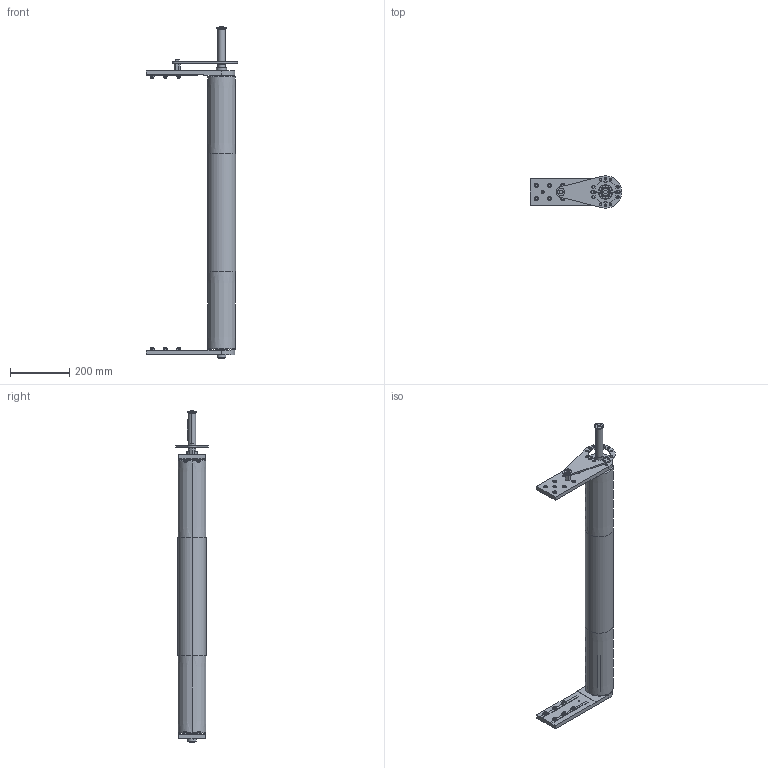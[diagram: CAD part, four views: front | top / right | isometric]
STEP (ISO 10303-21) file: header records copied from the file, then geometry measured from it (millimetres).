
FILE_DESCRIPTION (( 'STEP AP203' ), '1' );
FILE_NAME ('084.095.KD.63.900.STEP', '2019-07-30T07:20:31', ( '' ), ( '' ), 'SwSTEP 2.0', 'SolidWorks 2018', '' );
FILE_SCHEMA (( 'CONFIG_CONTROL_DESIGN' ));
Length unit declared in the file: millimetre
Products named in the file (20): 084.802.019_084.802.019; RONDELLE FASCIA LARGA UNI 6593_8.4x24 UNI 6593; 084.812.004; 084.802.034_084.802.034; 084.095.KD.63.900; 084.808.005-1; CHIAVETTE_A 8x7x70 UNI 6604-69; 084.812.003; 084.816.115_084.816.107<A macchina>; GRANI A PUNTA PIATTA UNI 5923_M8x25 UNI 5923; 084.802.027; VITI TE UNI 5739_M8x20 UNI 5739; CHIAVETTE_A 8x7x20 UNI 6604-69; RONDELLE FASCIA LARGA UNI 6593_8.4x32 UNI 6593; 084.808.003_084.808.003; circlip for shafts normal_din_PreviewCfg; 084.808.002_084.808.002; 084.302.000 DADI ALUSIC 13x13_084.302.004; 084.810.003; 084.301.000 VITI ALUSIC_084.301.003
Assembly tree (45 placements, depth 2):
  084.095.KD.63.900
    084.808.005-1
    084.802.027
    084.812.004
    084.802.034_084.802.034
    084.301.000 VITI ALUSIC_084.301.003  x12
    084.302.000 DADI ALUSIC 13x13_084.302.004  x12
    084.816.115_084.816.107<A macchina>
    084.812.003
    084.808.003_084.808.003
    084.808.002_084.808.002
    084.810.003  x2
    084.802.019_084.802.019
    CHIAVETTE_A 8x7x70 UNI 6604-69
    circlip for shafts normal_din_PreviewCfg  x3
    GRANI A PUNTA PIATTA UNI 5923_M8x25 UNI 5923
    VITI TE UNI 5739_M8x20 UNI 5739  x2
    RONDELLE FASCIA LARGA UNI 6593_8.4x24 UNI 6593
    CHIAVETTE_A 8x7x20 UNI 6604-69
    RONDELLE FASCIA LARGA UNI 6593_8.4x32 UNI 6593
Bounding box: 310 x 110 x 1125.33 mm (x, y, z)
Volume: 2665497.7 mm3; surface area: 1184216.2 mm2
Topology: 50 solids, 51 shells, 1119 faces, 2773 edges, 1799 vertices
Faces by surface type: plane 497, cylinder 379, cone 94, torus 92, bspline 48, sphere 9
Entity records: 24116 total; most frequent: CARTESIAN_POINT 4684, DIRECTION 3610, ORIENTED_EDGE 3358, EDGE_CURVE 1679, AXIS2_PLACEMENT_3D 1424, VERTEX_POINT 1092, EDGE_LOOP 805, LINE 762
